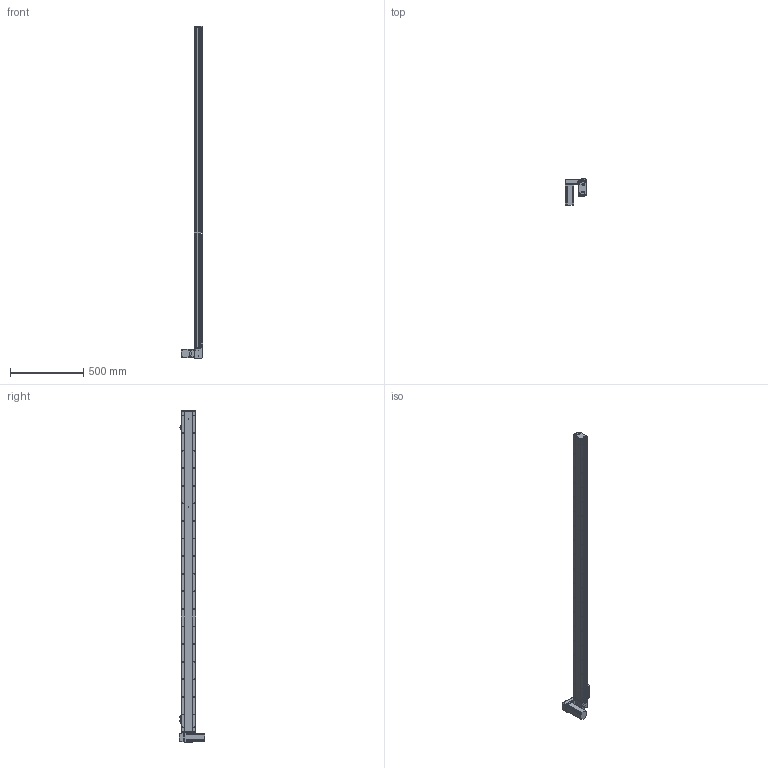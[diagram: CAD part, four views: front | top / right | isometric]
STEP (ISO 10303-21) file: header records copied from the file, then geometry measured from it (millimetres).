
FILE_DESCRIPTION (( 'STEP AP214' ), '1' );
FILE_NAME ('KSD100B-S2000-MLD-CM.STEP', '2019-08-31T07:19:27', ( '微软用户' ), ( '微软中国' ), 'SwSTEP 2.0', 'SolidWorks 2014', '' );
FILE_SCHEMA (( 'AUTOMOTIVE_DESIGN' ));
Length unit declared in the file: millimetre
Products named in the file (12): 覜茼え100遵圉猾敕; 100宽防尘板2000行程-同步带; 100宽马达安装板同步带左; 100宽同步带安装板半封闭; 100宽马达安装板同步带; 100遵傷啣肮祭湍; 100宽底板半封闭同步带2000行程; KSD100B-S2000-MLD-CM; 悵誘欶奻狟殏; 100宽马达安装板连板上下折丝杆同步带; 台达ECMA－C20604AS伺服电机; U倰嫖萇EEㄜSX672
Assembly tree (13 placements, depth 2):
  KSD100B-S2000-MLD-CM
    100宽底板半封闭同步带2000行程
    100遵傷啣肮祭湍
    100宽马达安装板同步带
    100宽同步带安装板半封闭
    100宽马达安装板同步带左
    100宽防尘板2000行程-同步带
    覜茼え100遵圉猾敕
    U倰嫖萇EEㄜSX672  x3
    台达ECMA－C20604AS伺服电机
    100宽马达安装板连板上下折丝杆同步带
    悵誘欶奻狟殏
Bounding box: 148 x 174.7 x 2265 mm (x, y, z)
Volume: 4621550.2 mm3; surface area: 1592382.8 mm2
Topology: 14 solids, 14 shells, 1767 faces, 5030 edges, 3157 vertices
Faces by surface type: cylinder 933, plane 627, cone 207
Entity records: 65683 total; most frequent: CARTESIAN_POINT 14444, DIRECTION 8802, ORIENTED_EDGE 8552, EDGE_CURVE 4276, AXIS2_PLACEMENT_3D 3253, VERTEX_POINT 2781, LINE 2296, VECTOR 2296
